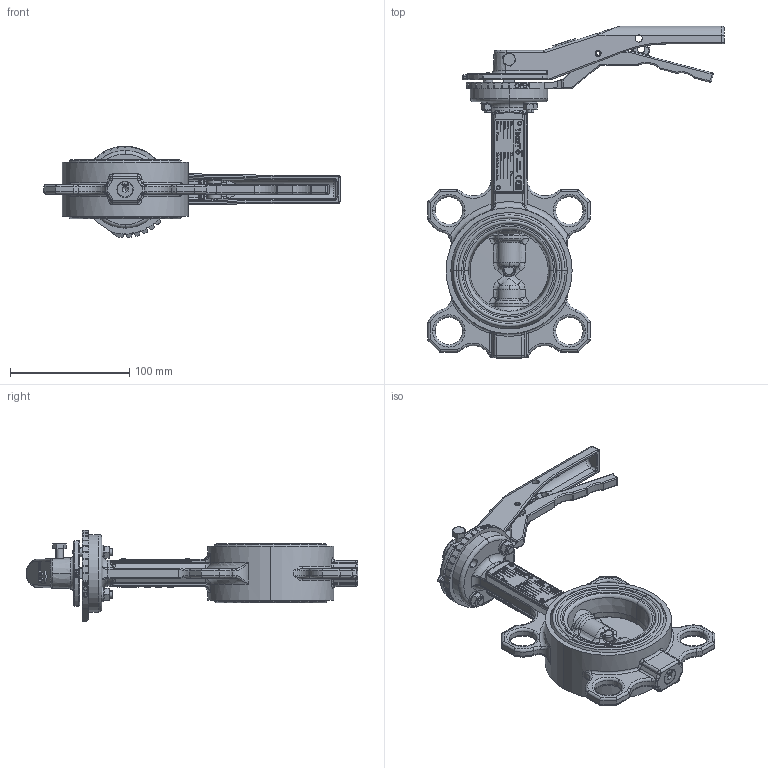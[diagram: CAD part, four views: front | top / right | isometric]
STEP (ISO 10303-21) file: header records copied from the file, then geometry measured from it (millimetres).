
FILE_DESCRIPTION (( 'STEP AP203' ), '1' );
FILE_NAME ('VPN-02 DN65.STEP', '2014-07-16T08:55:05', ( 'FAREX' ), ( '' ), 'SwSTEP 2.0', 'SolidWorks 2011', '' );
FILE_SCHEMA (( 'CONFIG_CONTROL_DESIGN' ));
Products named in the file (1): VPN-02 DN65
Bounding box: 248 x 277.9 x 76.45 mm (x, y, z)
Volume: 489158.9 mm3; surface area: 179335.5 mm2
Topology: 27 solids, 27 shells, 4207 faces, 10513 edges, 6673 vertices
Faces by surface type: bspline 1709, plane 1452, cylinder 588, torus 258, cone 126, sphere 74
Entity records: 190048 total; most frequent: CARTESIAN_POINT 101536, ORIENTED_EDGE 20818, DIRECTION 13499, EDGE_CURVE 10409, VERTEX_POINT 6667, LINE 4885, VECTOR 4885, EDGE_LOOP 4698
